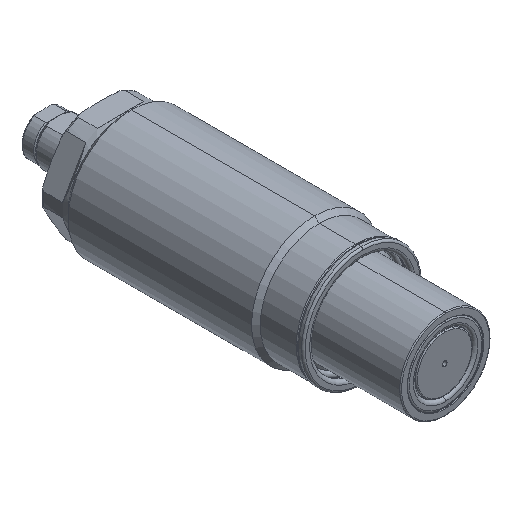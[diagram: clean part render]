
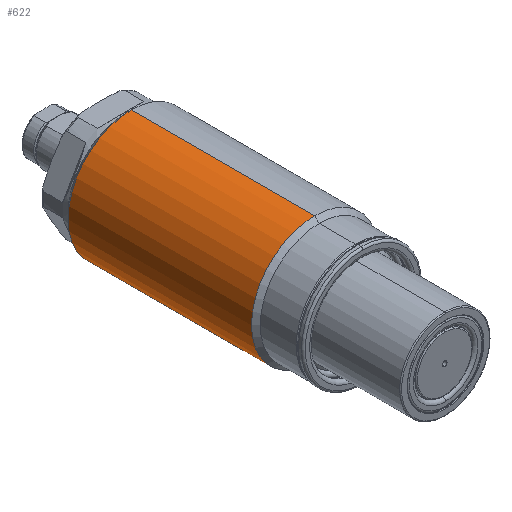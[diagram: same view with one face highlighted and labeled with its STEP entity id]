
A CAD part, isometric view. The second image highlights one B-rep face of the part: STEP entity #622.
In plain terms, the highlighted cylindrical face has radius 13 mm (diameter 26 mm), a partial arc.
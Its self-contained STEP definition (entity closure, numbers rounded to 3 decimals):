
#321=CYLINDRICAL_SURFACE('',#2961,13.);
#369=LINE('',#4317,#469);
#370=LINE('',#4318,#470);
#469=VECTOR('',#3339,1.);
#470=VECTOR('',#3340,1.);
#622=ADVANCED_FACE('',(#858),#321,.T.);
#858=FACE_OUTER_BOUND('',#1031,.T.);
#1031=EDGE_LOOP('',(#1456,#1457,#1458,#1459));
#1456=ORIENTED_EDGE('',*,*,#2214,.F.);
#1457=ORIENTED_EDGE('',*,*,#2325,.T.);
#1458=ORIENTED_EDGE('',*,*,#2215,.T.);
#1459=ORIENTED_EDGE('',*,*,#2326,.F.);
#1970=VERTEX_POINT('',#4309);
#1971=VERTEX_POINT('',#4311);
#1972=VERTEX_POINT('',#4315);
#1973=VERTEX_POINT('',#4316);
#2214=EDGE_CURVE('',#1973,#1971,#369,.T.);
#2215=EDGE_CURVE('',#1972,#1970,#370,.T.);
#2325=EDGE_CURVE('',#1973,#1972,#2643,.T.);
#2326=EDGE_CURVE('',#1971,#1970,#2644,.T.);
#2643=CIRCLE('',#2958,13.);
#2644=CIRCLE('',#2960,13.);
#2958=AXIS2_PLACEMENT_3D('',#4724,#3627,#3628);
#2960=AXIS2_PLACEMENT_3D('',#4726,#3631,#3632);
#2961=AXIS2_PLACEMENT_3D('',#4727,#3633,#3634);
#3339=DIRECTION('',(0.,1.,0.));
#3340=DIRECTION('',(0.,1.,0.));
#3627=DIRECTION('',(0.,1.,0.));
#3628=DIRECTION('',(0.,0.,1.));
#3631=DIRECTION('',(0.,1.,0.));
#3632=DIRECTION('',(0.,0.,1.));
#3633=DIRECTION('',(0.,1.,0.));
#3634=DIRECTION('',(0.,0.,-1.));
#4309=CARTESIAN_POINT('',(0.,67.935,13.));
#4311=CARTESIAN_POINT('',(0.,67.935,-13.));
#4315=CARTESIAN_POINT('',(0.,30.235,13.));
#4316=CARTESIAN_POINT('',(0.,30.235,-13.));
#4317=CARTESIAN_POINT('',(0.,93.333,-13.));
#4318=CARTESIAN_POINT('',(0.,93.333,13.));
#4724=CARTESIAN_POINT('',(0.,30.235,0.));
#4726=CARTESIAN_POINT('',(0.,67.935,0.));
#4727=CARTESIAN_POINT('',(0.,93.333,0.));
